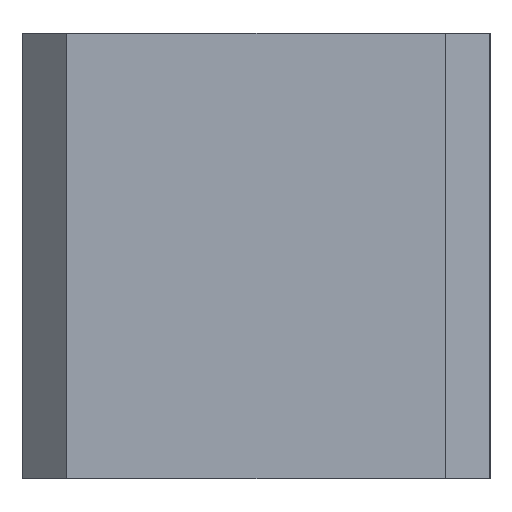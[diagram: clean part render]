
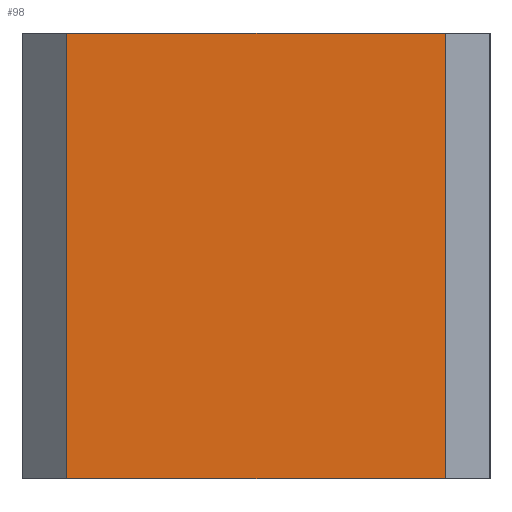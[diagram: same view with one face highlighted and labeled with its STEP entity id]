
A CAD part, left-side view. The second image highlights one B-rep face of the part: STEP entity #98.
In plain terms, the highlighted planar face has unit normal (-1, 0, 0).
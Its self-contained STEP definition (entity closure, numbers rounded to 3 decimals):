
#98=ADVANCED_FACE('',(#248),#250,.T.);
#248=FACE_BOUND('',#249,.T.);
#249=EDGE_LOOP('',(#367,#368,#369,#370));
#250=PLANE('',#251);
#251=AXIS2_PLACEMENT_3D('',#252,#253,#254);
#252=CARTESIAN_POINT('',(-18.,0.,-5.));
#253=DIRECTION('',(-1.,0.,0.));
#254=DIRECTION('',(0.,0.,1.));
#367=ORIENTED_EDGE('',*,*,#433,.F.);
#368=ORIENTED_EDGE('',*,*,#412,.F.);
#369=ORIENTED_EDGE('',*,*,#434,.T.);
#370=ORIENTED_EDGE('',*,*,#420,.T.);
#412=EDGE_CURVE('',#451,#453,#454,.T.);
#420=EDGE_CURVE('',#469,#467,#470,.T.);
#433=EDGE_CURVE('',#453,#467,#492,.T.);
#434=EDGE_CURVE('',#451,#469,#493,.T.);
#451=VERTEX_POINT('',#521);
#453=VERTEX_POINT('',#525);
#454=LINE('',#526,#527);
#467=VERTEX_POINT('',#555);
#469=VERTEX_POINT('',#559);
#470=LINE('',#560,#561);
#492=LINE('',#614,#615);
#493=LINE('',#617,#618);
#521=CARTESIAN_POINT('',(-18.,1.,-5.));
#525=CARTESIAN_POINT('',(-18.,9.5,-5.));
#526=CARTESIAN_POINT('',(-18.,1.,-5.));
#527=VECTOR('',#528,1.);
#528=DIRECTION('',(0.,1.,0.));
#555=CARTESIAN_POINT('',(-18.,9.5,5.));
#559=CARTESIAN_POINT('',(-18.,1.,5.));
#560=CARTESIAN_POINT('',(-18.,1.,5.));
#561=VECTOR('',#562,1.);
#562=DIRECTION('',(0.,1.,0.));
#614=CARTESIAN_POINT('',(-18.,9.5,-5.));
#615=VECTOR('',#616,1.);
#616=DIRECTION('',(0.,0.,1.));
#617=CARTESIAN_POINT('',(-18.,1.,-5.));
#618=VECTOR('',#619,1.);
#619=DIRECTION('',(0.,0.,1.));
